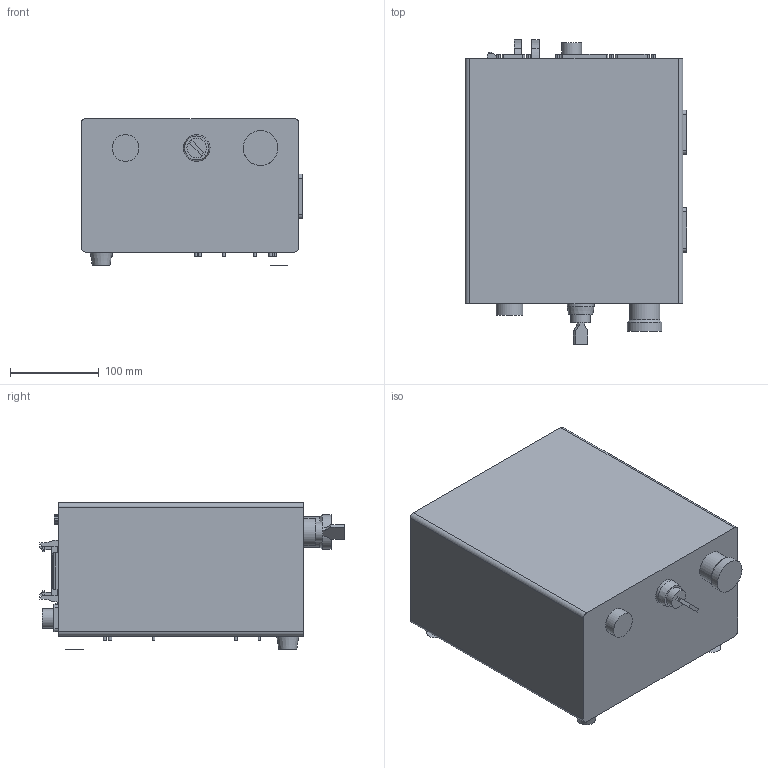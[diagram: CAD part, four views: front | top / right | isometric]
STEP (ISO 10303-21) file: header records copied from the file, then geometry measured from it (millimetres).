
FILE_DESCRIPTION(/* description */ ('STEP AP203'),/* implementation_level */ '2;1');
FILE_NAME(/* name */ '',/* time_stamp */ '2025-12-09T15:54:41+09:00',/* author */ (''),/* organization */ (''),/* preprocessor_version */ 'ST-DEVELOPER v20.1',/* originating_system */ 'Autodesk Translation Framework v14.21.0.0',/* authorisation */ '');
FILE_SCHEMA (('AUTOMOTIVE_DESIGN { 1 0 10303 214 3 1 1 }'));
Length unit declared in the file: millimetre
Products named in the file (1): UV-Mark200»úÏä
Bounding box: 249.5 x 342.5 x 165 mm (x, y, z)
Volume: 10262353.4 mm3; surface area: 313706 mm2
Topology: 1 solids, 1 shells, 339 faces, 860 edges, 572 vertices
Faces by surface type: plane 266, cylinder 67, cone 6
Full cylindrical faces by diameter (mm): 3 x5, 4 x4, 22 x2, 30 x2, 34 x1, 39 x1
Entity records: 10421 total; most frequent: CARTESIAN_POINT 1772, ORIENTED_EDGE 1720, DIRECTION 1684, EDGE_CURVE 860, LINE 716, VECTOR 716, VERTEX_POINT 572, AXIS2_PLACEMENT_3D 484
